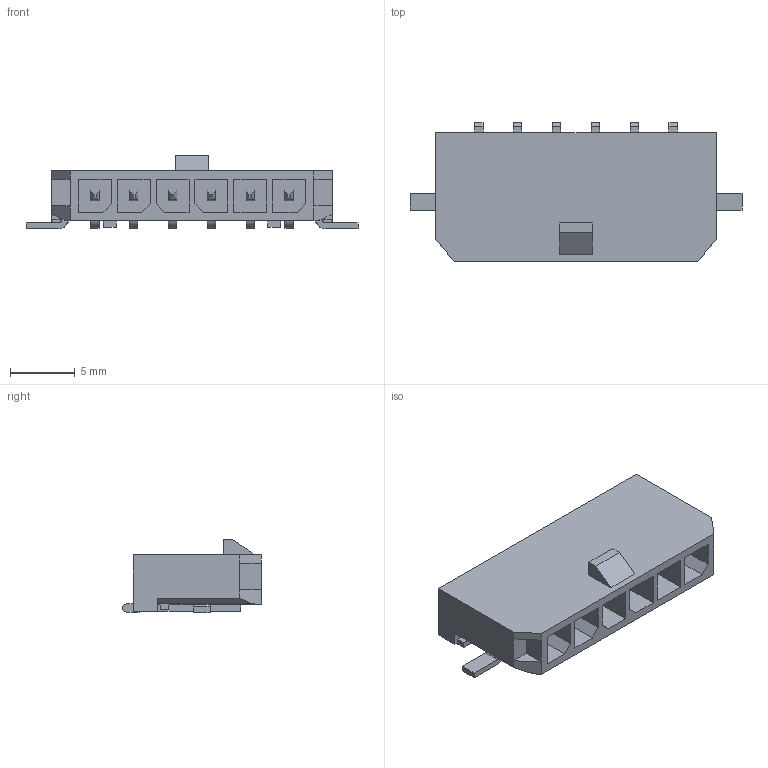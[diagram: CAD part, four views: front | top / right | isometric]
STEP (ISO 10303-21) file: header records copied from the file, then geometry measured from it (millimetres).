
FILE_DESCRIPTION(/* description */ (''),/* implementation_level */ '2;1');
FILE_NAME(/* name */ '436500613wbm000_02_214.stp',/* time_stamp */ '2024-04-18T14:54:07+05:00',/* author */ (''),/* organization */ (''),/* preprocessor_version */ 'ST-DEVELOPER v16.7',/* originating_system */ 'SIEMENS PLM Software NX 1919',/* authorisation */ '');
FILE_SCHEMA (('AUTOMOTIVE_DESIGN { 1 0 10303 214 3 1 1 1 }'));
Length unit declared in the file: millimetre
Products named in the file (1): 436500613wbm000_02
Bounding box: 25.64 x 10.7 x 5.67 mm (x, y, z)
Volume: 591.6 mm3; surface area: 1187.2 mm2
Topology: 1 solids, 1 shells, 218 faces, 571 edges, 370 vertices
Faces by surface type: plane 186, cylinder 32
Entity records: 6607 total; most frequent: CARTESIAN_POINT 1160, ORIENTED_EDGE 1142, DIRECTION 1073, EDGE_CURVE 571, LINE 507, VECTOR 507, VERTEX_POINT 370, AXIS2_PLACEMENT_3D 283
